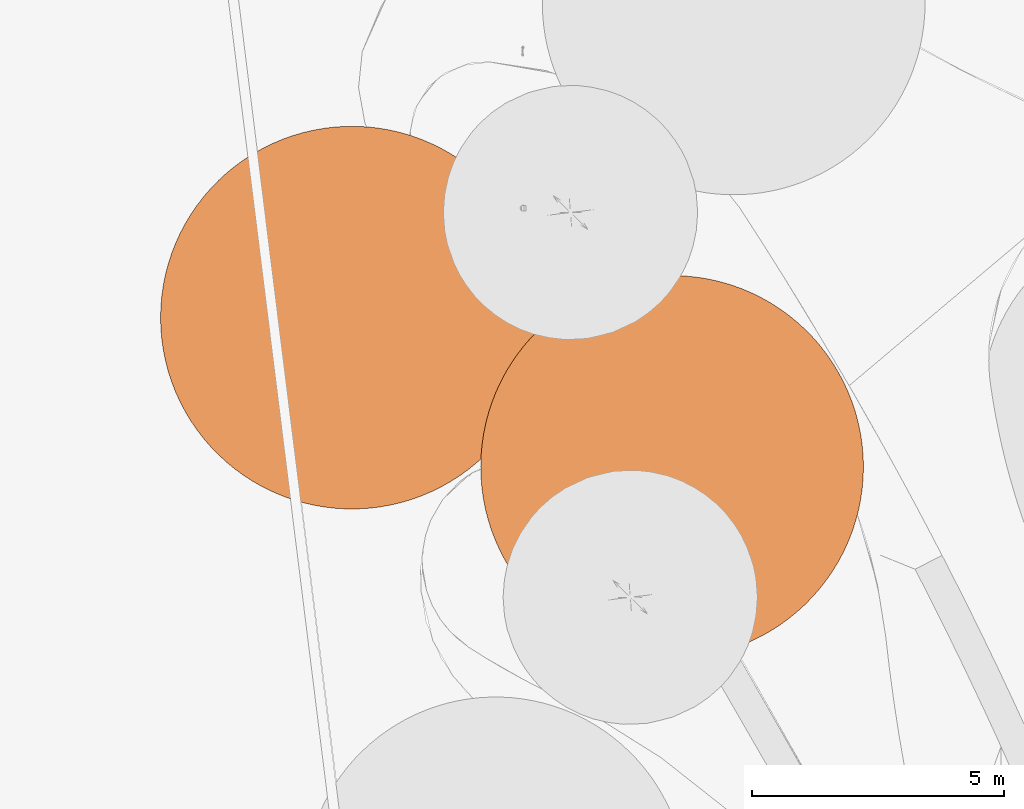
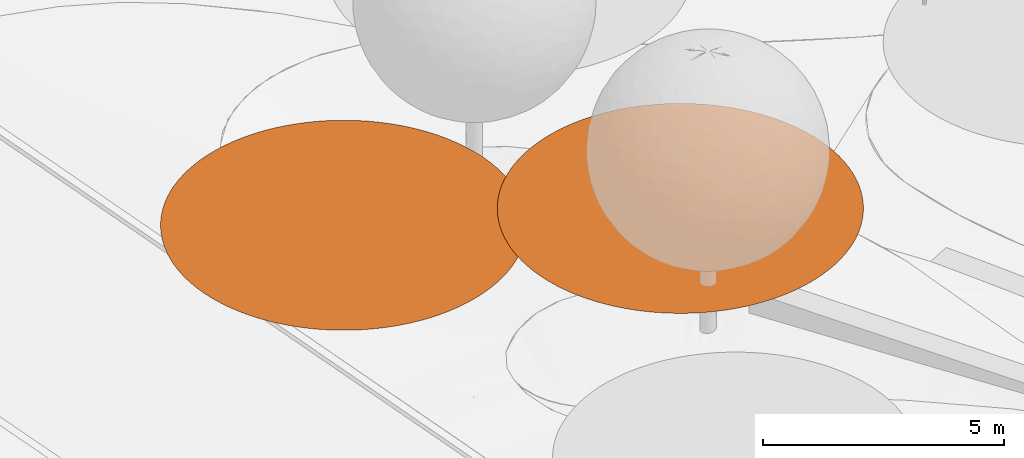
# One storey, part 69 of 75: 2 proxies.
"""IFC2X3 building model written with IfcOpenShell, lengths in metres."""

from ifc_helpers import new_model, entity, si_unit, converted_unit, derived_unit, direction, frame, origin, place, context, subcontext, project, spatial, face_set, surface_model, source, transform, mapped, material, type_object, type_shapes, element, save


model = new_model("IFC2X3")

# Units and contexts
model_context = context("Model", 3, precision=1e-05, world=origin(), true_north=direction((6.123031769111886e-17, 1.0)))
body_context = subcontext(model_context, "Body", "Model", "MODEL_VIEW")
ifc_project = project(units=[si_unit("LENGTHUNIT", "METRE"), si_unit("AREAUNIT", "SQUARE_METRE"), si_unit("VOLUMEUNIT", "CUBIC_METRE"), converted_unit("PLANEANGLEUNIT", "DEGREE", entity("IfcRatioMeasure", 0.017453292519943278), si_unit("PLANEANGLEUNIT", "RADIAN"), dimensions=[0, 0, 0, 0, 0, 0, 0]), si_unit("MASSUNIT", "GRAM", prefix="KILO"), derived_unit("MASSDENSITYUNIT", [(si_unit("MASSUNIT", "GRAM", prefix="KILO"), 1), (si_unit("LENGTHUNIT", "METRE"), -3)]), derived_unit("IONCONCENTRATIONUNIT", [(si_unit("MASSUNIT", "GRAM", prefix="KILO"), 1), (si_unit("LENGTHUNIT", "METRE"), -3)]), derived_unit("MOMENTOFINERTIAUNIT", [(si_unit("LENGTHUNIT", "METRE"), 4)]), si_unit("TIMEUNIT", "SECOND"), si_unit("FREQUENCYUNIT", "HERTZ"), si_unit("THERMODYNAMICTEMPERATUREUNIT", "DEGREE_CELSIUS"), derived_unit("THERMALTRANSMITTANCEUNIT", [(si_unit("MASSUNIT", "GRAM", prefix="KILO"), 1), (si_unit("THERMODYNAMICTEMPERATUREUNIT", "KELVIN"), -1), (si_unit("TIMEUNIT", "SECOND"), -3)]), derived_unit("THERMALCONDUCTANCEUNIT", [(si_unit("MASSUNIT", "GRAM", prefix="KILO"), 1), (si_unit("THERMODYNAMICTEMPERATUREUNIT", "KELVIN"), -1), (si_unit("TIMEUNIT", "SECOND"), -3), (si_unit("LENGTHUNIT", "METRE"), 1)]), derived_unit("VOLUMETRICFLOWRATEUNIT", [(si_unit("LENGTHUNIT", "METRE"), 3), (si_unit("TIMEUNIT", "SECOND"), -1)]), derived_unit("MASSFLOWRATEUNIT", [(si_unit("MASSUNIT", "GRAM", prefix="KILO"), 1), (si_unit("TIMEUNIT", "SECOND"), -1)]), derived_unit("ROTATIONALFREQUENCYUNIT", [(si_unit("TIMEUNIT", "SECOND"), -1)]), si_unit("ELECTRICCURRENTUNIT", "AMPERE"), si_unit("ELECTRICVOLTAGEUNIT", "VOLT"), si_unit("POWERUNIT", "WATT"), si_unit("FORCEUNIT", "NEWTON", prefix="KILO"), si_unit("ILLUMINANCEUNIT", "LUX"), si_unit("LUMINOUSFLUXUNIT", "LUMEN"), si_unit("LUMINOUSINTENSITYUNIT", "CANDELA"), derived_unit("USERDEFINED", [(si_unit("MASSUNIT", "GRAM", prefix="KILO"), -1), (si_unit("LENGTHUNIT", "METRE"), -2), (si_unit("TIMEUNIT", "SECOND"), 3), (si_unit("LUMINOUSFLUXUNIT", "LUMEN"), 1)]), derived_unit("USERDEFINED", [(si_unit("MASSUNIT", "GRAM", prefix="KILO"), 1), (si_unit("TIMEUNIT", "SECOND"), -3), (si_unit("LENGTHUNIT", "METRE"), 3), (si_unit("ELECTRICCURRENTUNIT", "AMPERE"), -2)]), derived_unit("SOUNDPOWERUNIT", [(si_unit("MASSUNIT", "GRAM", prefix="KILO"), 1), (si_unit("TIMEUNIT", "SECOND"), -3), (si_unit("LENGTHUNIT", "METRE"), 2)]), derived_unit("SOUNDPRESSUREUNIT", [(si_unit("MASSUNIT", "GRAM", prefix="KILO"), 1), (si_unit("LENGTHUNIT", "METRE"), -1), (si_unit("TIMEUNIT", "SECOND"), -2)]), derived_unit("LINEARVELOCITYUNIT", [(si_unit("LENGTHUNIT", "METRE"), 1), (si_unit("TIMEUNIT", "SECOND"), -1)]), si_unit("PRESSUREUNIT", "PASCAL"), derived_unit("USERDEFINED", [(si_unit("MASSUNIT", "GRAM", prefix="KILO"), 1), (si_unit("LENGTHUNIT", "METRE"), -2), (si_unit("TIMEUNIT", "SECOND"), -2)]), derived_unit("LINEARFORCEUNIT", [(si_unit("MASSUNIT", "GRAM", prefix="KILO"), 1), (si_unit("TIMEUNIT", "SECOND"), -2)]), derived_unit("PLANARFORCEUNIT", [(si_unit("MASSUNIT", "GRAM", prefix="KILO"), 1), (si_unit("LENGTHUNIT", "METRE"), -1), (si_unit("TIMEUNIT", "SECOND"), -2)]), derived_unit("SPECIFICHEATCAPACITYUNIT", [(si_unit("THERMODYNAMICTEMPERATUREUNIT", "KELVIN"), -1), (si_unit("LENGTHUNIT", "METRE"), 2), (si_unit("TIMEUNIT", "SECOND"), -2)]), derived_unit("HEATINGVALUEUNIT", [(si_unit("LENGTHUNIT", "METRE"), 2), (si_unit("TIMEUNIT", "SECOND"), -2)]), derived_unit("VAPORPERMEABILITYUNIT", [(si_unit("LENGTHUNIT", "METRE"), -1), (si_unit("TIMEUNIT", "SECOND"), 1)]), derived_unit("DYNAMICVISCOSITYUNIT", [(si_unit("MASSUNIT", "GRAM", prefix="KILO"), 1), (si_unit("TIMEUNIT", "SECOND"), -1), (si_unit("LENGTHUNIT", "METRE"), -1)]), derived_unit("THERMALEXPANSIONCOEFFICIENTUNIT", [(si_unit("THERMODYNAMICTEMPERATUREUNIT", "KELVIN"), -1)]), derived_unit("MODULUSOFELASTICITYUNIT", [(si_unit("MASSUNIT", "GRAM", prefix="KILO"), 1), (si_unit("LENGTHUNIT", "METRE"), -1), (si_unit("TIMEUNIT", "SECOND"), -2)]), derived_unit("ISOTHERMALMOISTURECAPACITYUNIT", [(si_unit("LENGTHUNIT", "METRE"), 3), (si_unit("MASSUNIT", "GRAM", prefix="KILO"), -1)]), derived_unit("MOISTUREDIFFUSIVITYUNIT", [(si_unit("TIMEUNIT", "SECOND"), -1), (si_unit("LENGTHUNIT", "METRE"), 2)])], contexts=[model_context])

# Site, building, storey
site_placement = place(None, origin())
site = spatial("IfcSite", under=ifc_project, at=site_placement, Name="Default", CompositionType="ELEMENT")
building_placement = place(site_placement, origin())
building = spatial("IfcBuilding", under=site, at=building_placement, Name="Projeto", CompositionType="ELEMENT")
storey_placement = place(building_placement, origin())
storey = spatial("IfcBuildingStorey", under=building, at=storey_placement, Name="Nível 1", CompositionType="ELEMENT", Elevation=0.0)

# Proxies
ifc_material = material(Name="<Unnamed>")
building_element_proxy_type = type_object("IfcBuildingElementProxyType", Name="Arvore simplificada:Arvore simplificada", PredefinedType="NOTDEFINED", material=ifc_material)
shared_shape = source(origin(), body_context, "Body", "SurfaceModel", [
    surface_model("IfcFaceBasedSurfaceModel", [(-3.9544974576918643, -0.18317979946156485, 0.0), (-3.9483138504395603, -0.3996342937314, 0.0), (-3.929783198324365, -0.6153827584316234, 0.0), (-3.8989659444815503, -0.8297214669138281, 0.0), (-3.855962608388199, -1.0419512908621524, 0.0), (-3.8009134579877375, -1.2513799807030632, 0.0), (-3.733998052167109, -1.4573244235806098, 0.0), (-3.655434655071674, -1.6591128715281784, 0.0), (-3.5654795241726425, -1.8560871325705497, 0.0), (-3.4644260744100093, -2.0476047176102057, 0.0), (-3.3526039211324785, -2.2330409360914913, 0.0), (-3.2303778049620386, -2.411790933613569, 0.0), (-3.098146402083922, -2.583271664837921, 0.0), (-2.9563410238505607, -2.7469237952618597, 0.0), (-2.8054242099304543, -2.9022135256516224, 0.0), (-2.6458882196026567, -3.048634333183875, 0.0), (-2.4782534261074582, -3.1857086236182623, 0.0), (-2.3030666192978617, -3.3129892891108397, 0.0), (-2.12089922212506, -3.430061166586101, 0.0), (-1.93234542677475, -3.5365423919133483, 0.0), (-1.7380202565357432, -3.632085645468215, 0.0), (-1.5385575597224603, -3.7163792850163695, 0.0), (-1.3346079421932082, -3.789148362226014, 0.0), (-1.1268366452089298, -3.8501555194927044, 0.0), (-0.9159213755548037, -3.8992017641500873, 0.0), (-0.7025500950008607, -3.9361271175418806, 0.0), (-0.48741877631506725, -3.9608111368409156, 0.0), (-0.2712291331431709, -3.9731733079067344, 0.0), (-0.054686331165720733, -3.9731733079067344, 0.0), (0.16150331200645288, -3.9608111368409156, 0.0), (0.3766346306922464, -3.9361271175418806, 0.0), (0.5900059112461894, -3.8992017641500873, 0.0), (0.8009211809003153, -3.8501555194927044, 0.0), (1.0086924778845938, -3.789148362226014, 0.0), (1.212642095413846, -3.7163792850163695, 0.0), (1.4121047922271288, -3.632085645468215, 0.0), (1.6064299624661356, -3.5365423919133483, 0.0), (1.7949837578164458, -3.430061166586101, 0.0), (1.9771511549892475, -3.3129892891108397, 0.0), (2.152337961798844, -3.1857086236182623, 0.0), (2.3199727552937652, -3.048634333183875, 0.0), (2.479508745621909, -2.9022135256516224, 0.0), (2.6304255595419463, -2.7469237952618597, 0.0), (2.7722309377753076, -2.583271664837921, 0.0), (2.9044623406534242, -2.411790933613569, 0.0), (3.026688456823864, -2.2330409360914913, 0.0), (3.138510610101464, -2.0476047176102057, 0.0), (3.239564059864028, -1.8560871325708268, 0.0), (3.3295191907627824, -1.6591128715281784, 0.0), (3.4080825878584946, -1.4573244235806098, 0.0), (3.474997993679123, -1.2513799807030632, 0.0), (3.5300471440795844, -1.0419512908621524, 0.0), (3.573050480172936, -0.8297214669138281, 0.0), (3.6038677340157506, -0.6153827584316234, 0.0), (3.622398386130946, -0.3996342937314, 0.0), (3.62858199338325, -0.18317979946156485, 0.0), (3.622398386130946, 0.03327469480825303, 0.0), (3.6038677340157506, 0.24902315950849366, 0.0), (3.573050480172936, 0.4633618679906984, 0.0), (3.5300471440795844, 0.6755916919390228, 0.0), (3.474997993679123, 0.8850203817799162, 0.0), (3.4080825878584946, 1.0909648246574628, 0.0), (3.3295191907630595, 1.2927532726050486, 0.0), (3.239564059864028, 1.4897275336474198, 0.0), (3.138510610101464, 1.6812451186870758, 0.0), (3.026688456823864, 1.8666813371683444, 0.0), (2.9044623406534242, 2.0454313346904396, 0.0), (2.7722309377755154, 2.2169120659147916, 0.0), (2.6304255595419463, 2.38056419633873, 0.0), (2.479508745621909, 2.535853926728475, 0.0), (2.3199727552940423, 2.682274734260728, 0.0), (2.152337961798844, 2.819349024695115, 0.0), (1.9771511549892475, 2.946629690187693, 0.0), (1.7949837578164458, 3.063701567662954, 0.0), (1.6064299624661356, 3.1701827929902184, 0.0), (1.4121047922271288, 3.265726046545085, 0.0), (1.212642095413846, 3.3500196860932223, 0.0), (1.0086924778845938, 3.422788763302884, 0.0), (0.8009211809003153, 3.4837959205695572, 0.0), (0.5900059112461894, 3.5328421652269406, 0.0), (0.3766346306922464, 3.5697675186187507, 0.0), (0.16150331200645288, 3.5944515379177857, 0.0), (-0.05468633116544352, 3.606813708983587, 0.0), (-0.27122913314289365, 3.606813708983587, 0.0), (-0.48741877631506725, 3.5944515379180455, 0.0), (-0.7025500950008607, 3.5697675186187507, 0.0), (-0.9159213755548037, 3.5328421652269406, 0.0), (-1.1268366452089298, 3.4837959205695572, 0.0), (-1.3346079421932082, 3.422788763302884, 0.0), (-1.5385575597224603, 3.3500196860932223, 0.0), (-1.7380202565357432, 3.265726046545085, 0.0), (-1.93234542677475, 3.1701827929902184, 0.0), (-2.12089922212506, 3.063701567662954, 0.0), (-2.3030666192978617, 2.946629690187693, 0.0), (-2.4782534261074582, 2.819349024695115, 0.0), (-2.6458882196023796, 2.682274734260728, 0.0), (-2.8054242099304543, 2.535853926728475, 0.0), (-2.9563410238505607, 2.38056419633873, 0.0), (-3.098146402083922, 2.2169120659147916, 0.0), (-3.2303778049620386, 2.0454313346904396, 0.0), (-3.3526039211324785, 1.8666813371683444, 0.0), (-3.4644260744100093, 1.6812451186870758, 0.0), (-3.5654795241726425, 1.4897275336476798, 0.0), (-3.6554346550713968, 1.2927532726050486, 0.0), (-3.733998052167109, 1.0909648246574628, 0.0), (-3.8009134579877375, 0.8850203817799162, 0.0), (-3.855962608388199, 0.6755916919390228, 0.0), (-3.8989659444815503, 0.4633618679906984, 0.0), (-3.929783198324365, 0.24902315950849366, 0.0), (-3.9483138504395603, 0.03327469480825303, 0.0)], [face_set([[[0, 1, 2, 3, 4, 5, 6, 7, 8, 9, 10, 11, 12, 13, 14, 15, 16, 17, 18, 19, 20, 21, 22, 23, 24, 25, 26, 27, 28, 29, 30, 31, 32, 33, 34, 35, 36, 37, 38, 39, 40, 41, 42, 43, 44, 45, 46, 47, 48, 49, 50, 51, 52, 53, 54, 55, 56, 57, 58, 59, 60, 61, 62, 63, 64, 65, 66, 67, 68, 69, 70, 71, 72, 73, 74, 75, 76, 77, 78, 79, 80, 81, 82, 83, 84, 85, 86, 87, 88, 89, 90, 91, 92, 93, 94, 95, 96, 97, 98, 99, 100, 101, 102, 103, 104, 105, 106, 107, 108, 109]]])]),
])
type_shapes(building_element_proxy_type, [shared_shape])
for number, where, z_axis, x_axis in (
    (1, (-19.58991212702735, 13.146212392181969, 0.0), (0.0, 0.0, 1.0), (0.9422539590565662, 0.3348992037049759, 0.0)),
    (2, (-25.934066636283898, 16.104540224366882, 0.0), (0.0, 0.0, 1.0), (0.9422539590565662, 0.3348992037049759, 0.0)),
):
    element("IfcBuildingElementProxy", number, at=place(storey_placement, frame(where, z_axis=z_axis, x_axis=x_axis)), inside=storey, type_object=building_element_proxy_type, material=ifc_material, Name="Arvore simplificada:Arvore simplificada", ObjectType="Arvore simplificada:Arvore simplificada", context=body_context, shape_type="MappedRepresentation", body=[
        mapped(shared_shape, transform((0.0, 0.0, 0.0), scale=1.0)),
    ])

save(model, "model.ifc")
